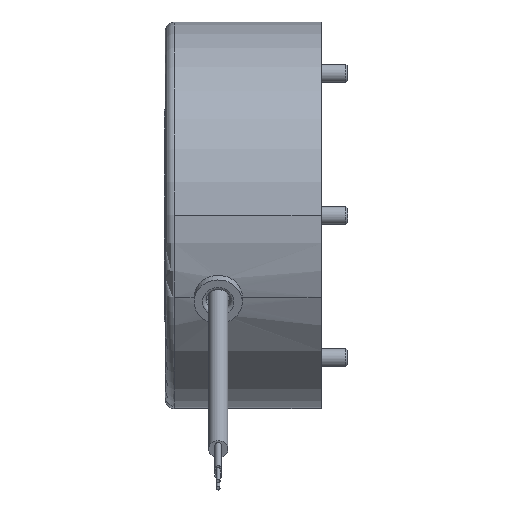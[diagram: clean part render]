
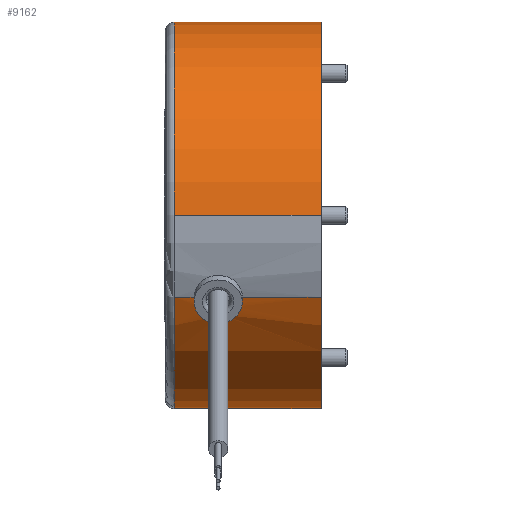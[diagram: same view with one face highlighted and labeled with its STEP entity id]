
A CAD part, front view. The second image highlights one B-rep face of the part: STEP entity #9162.
In plain terms, the highlighted cylindrical face has radius 53 mm (diameter 106 mm), a partial arc.
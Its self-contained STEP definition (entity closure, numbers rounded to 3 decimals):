
#305=B_SPLINE_CURVE_WITH_KNOTS('',3,(#15818,#15819,#15820,#15821,#15822,
#15823,#15824,#15825,#15826,#15827,#15828,#15829,#15830),.UNSPECIFIED.,
 .F.,.F.,(4,1,1,1,1,1,1,1,1,1,4),(-1.74,-1.492,-1.326,
-0.995,-0.746,-0.622,-0.497,
-0.373,-0.249,-0.124,0.),
 .UNSPECIFIED.);
#554=CYLINDRICAL_SURFACE('',#9968,53.);
#1032=CIRCLE('',#9969,53.);
#1033=CIRCLE('',#9970,53.);
#1034=CIRCLE('',#9971,53.);
#1035=CIRCLE('',#9972,53.);
#1036=CIRCLE('',#9973,53.);
#1650=FACE_OUTER_BOUND('',#2171,.T.);
#2171=EDGE_LOOP('',(#7130,#7131,#7132,#7133,#7134,#7135,#7136,#7137,#7138,
#7139,#7140));
#2746=LINE('',#15800,#3176);
#2747=LINE('',#15808,#3177);
#2748=LINE('',#15814,#3178);
#2749=LINE('',#15816,#3179);
#2750=LINE('',#15831,#3180);
#3176=VECTOR('',#11905,53.);
#3177=VECTOR('',#11912,53.);
#3178=VECTOR('',#11917,53.);
#3179=VECTOR('',#11918,10.);
#3180=VECTOR('',#11919,10.);
#3867=VERTEX_POINT('',#15798);
#3868=VERTEX_POINT('',#15799);
#3869=VERTEX_POINT('',#15801);
#3870=VERTEX_POINT('',#15803);
#3871=VERTEX_POINT('',#15805);
#3872=VERTEX_POINT('',#15807);
#3873=VERTEX_POINT('',#15809);
#3874=VERTEX_POINT('',#15811);
#3875=VERTEX_POINT('',#15813);
#3876=VERTEX_POINT('',#15815);
#3877=VERTEX_POINT('',#15817);
#5039=EDGE_CURVE('',#3867,#3868,#2746,.T.);
#5040=EDGE_CURVE('',#3869,#3867,#1032,.T.);
#5041=EDGE_CURVE('',#3870,#3869,#1033,.T.);
#5042=EDGE_CURVE('',#3871,#3870,#1034,.T.);
#5043=EDGE_CURVE('',#3872,#3871,#2747,.T.);
#5044=EDGE_CURVE('',#3873,#3872,#1035,.T.);
#5045=EDGE_CURVE('',#3874,#3873,#1036,.T.);
#5046=EDGE_CURVE('',#3875,#3874,#2748,.T.);
#5047=EDGE_CURVE('',#3876,#3875,#2749,.T.);
#5048=EDGE_CURVE('',#3877,#3876,#305,.T.);
#5049=EDGE_CURVE('',#3868,#3877,#2750,.T.);
#7130=ORIENTED_EDGE('',*,*,#5039,.F.);
#7131=ORIENTED_EDGE('',*,*,#5040,.F.);
#7132=ORIENTED_EDGE('',*,*,#5041,.F.);
#7133=ORIENTED_EDGE('',*,*,#5042,.F.);
#7134=ORIENTED_EDGE('',*,*,#5043,.F.);
#7135=ORIENTED_EDGE('',*,*,#5044,.F.);
#7136=ORIENTED_EDGE('',*,*,#5045,.F.);
#7137=ORIENTED_EDGE('',*,*,#5046,.F.);
#7138=ORIENTED_EDGE('',*,*,#5047,.F.);
#7139=ORIENTED_EDGE('',*,*,#5048,.F.);
#7140=ORIENTED_EDGE('',*,*,#5049,.F.);
#9162=ADVANCED_FACE('',(#1650),#554,.T.);
#9968=AXIS2_PLACEMENT_3D('',#15797,#11903,#11904);
#9969=AXIS2_PLACEMENT_3D('',#15802,#11906,#11907);
#9970=AXIS2_PLACEMENT_3D('',#15804,#11908,#11909);
#9971=AXIS2_PLACEMENT_3D('',#15806,#11910,#11911);
#9972=AXIS2_PLACEMENT_3D('',#15810,#11913,#11914);
#9973=AXIS2_PLACEMENT_3D('',#15812,#11915,#11916);
#11903=DIRECTION('center_axis',(1.,0.,0.));
#11904=DIRECTION('ref_axis',(0.,0.906,0.423));
#11905=DIRECTION('',(1.,0.,0.));
#11906=DIRECTION('center_axis',(-1.,0.,0.));
#11907=DIRECTION('ref_axis',(0.,-1.,0.));
#11908=DIRECTION('center_axis',(-1.,0.,0.));
#11909=DIRECTION('ref_axis',(0.,-1.,0.));
#11910=DIRECTION('center_axis',(-1.,0.,0.));
#11911=DIRECTION('ref_axis',(0.,-1.,0.));
#11912=DIRECTION('',(-1.,0.,0.));
#11913=DIRECTION('center_axis',(1.,0.,0.));
#11914=DIRECTION('ref_axis',(0.,1.,0.));
#11915=DIRECTION('center_axis',(1.,0.,0.));
#11916=DIRECTION('ref_axis',(0.,1.,0.));
#11917=DIRECTION('',(1.,0.,0.));
#11918=DIRECTION('',(1.,0.,0.));
#11919=DIRECTION('',(1.,0.,0.));
#15797=CARTESIAN_POINT('Origin',(-21.35,0.,0.));
#15798=CARTESIAN_POINT('',(-40.2,-48.034,-22.399));
#15799=CARTESIAN_POINT('',(-34.8,-48.034,-22.399));
#15800=CARTESIAN_POINT('',(-21.35,-48.034,-22.399));
#15801=CARTESIAN_POINT('',(-40.2,53.,0.));
#15802=CARTESIAN_POINT('Origin',(-40.2,0.,0.));
#15803=CARTESIAN_POINT('',(-40.2,0.,53.));
#15804=CARTESIAN_POINT('Origin',(-40.2,0.,0.));
#15805=CARTESIAN_POINT('',(-40.2,-53.,0.));
#15806=CARTESIAN_POINT('Origin',(-40.2,0.,0.));
#15807=CARTESIAN_POINT('',(0.,-53.,0.));
#15808=CARTESIAN_POINT('',(-21.35,-53.,0.));
#15809=CARTESIAN_POINT('',(0.,53.,0.));
#15810=CARTESIAN_POINT('Origin',(0.,0.,0.));
#15811=CARTESIAN_POINT('',(0.,-48.034,-22.399));
#15812=CARTESIAN_POINT('Origin',(0.,0.,0.));
#15813=CARTESIAN_POINT('',(-21.6,-48.034,-22.399));
#15814=CARTESIAN_POINT('',(-21.35,-48.034,-22.399));
#15815=CARTESIAN_POINT('',(-22.6,-48.034,-22.399));
#15816=CARTESIAN_POINT('',(-21.35,-48.034,-22.399));
#15817=CARTESIAN_POINT('',(-33.8,-48.034,-22.399));
#15818=CARTESIAN_POINT('Ctrl Pts',(-33.791,-48.031,-22.397));
#15819=CARTESIAN_POINT('Ctrl Pts',(-33.792,-47.671,
-23.171));
#15820=CARTESIAN_POINT('Ctrl Pts',(-33.493,-47.044,
-24.449));
#15821=CARTESIAN_POINT('Ctrl Pts',(-32.049,-46.01,
-26.329));
#15822=CARTESIAN_POINT('Ctrl Pts',(-29.781,-45.318,
-27.485));
#15823=CARTESIAN_POINT('Ctrl Pts',(-27.348,-45.318,
-27.483));
#15824=CARTESIAN_POINT('Ctrl Pts',(-25.71,-45.62,
-26.981));
#15825=CARTESIAN_POINT('Ctrl Pts',(-24.517,-46.019,
-26.298));
#15826=CARTESIAN_POINT('Ctrl Pts',(-23.542,-46.561,-25.329));
#15827=CARTESIAN_POINT('Ctrl Pts',(-22.911,-47.145,
-24.226));
#15828=CARTESIAN_POINT('Ctrl Pts',(-22.628,-47.68,
-23.151));
#15829=CARTESIAN_POINT('Ctrl Pts',(-22.6,-47.915,
-22.654));
#15830=CARTESIAN_POINT('Ctrl Pts',(-22.6,-48.034,
-22.399));
#15831=CARTESIAN_POINT('',(-21.35,-48.034,-22.399));
